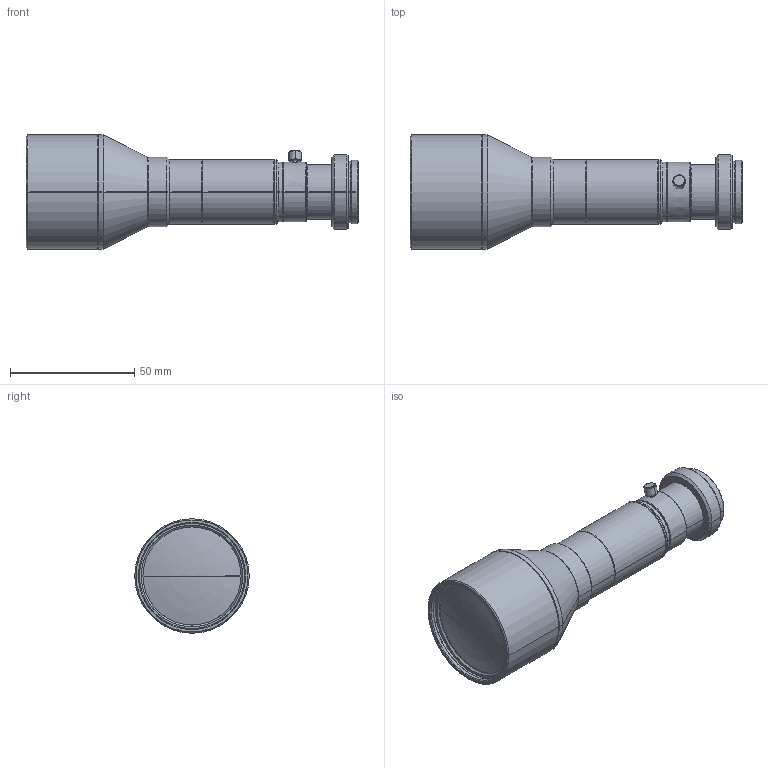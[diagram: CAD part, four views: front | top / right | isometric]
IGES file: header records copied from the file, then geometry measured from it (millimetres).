
Start section: SolidWorks IGES file using analytic representation for surfaces
Bounding box: 133.47 x 46 x 46 mm (x, y, z)
Surface area: 18383.9 mm2 (no closed solid volume)
Topology: 0 solids, 0 shells, 137 faces, 1702 edges, 1700 vertices
Faces by surface type: revolution 122, bspline 15
